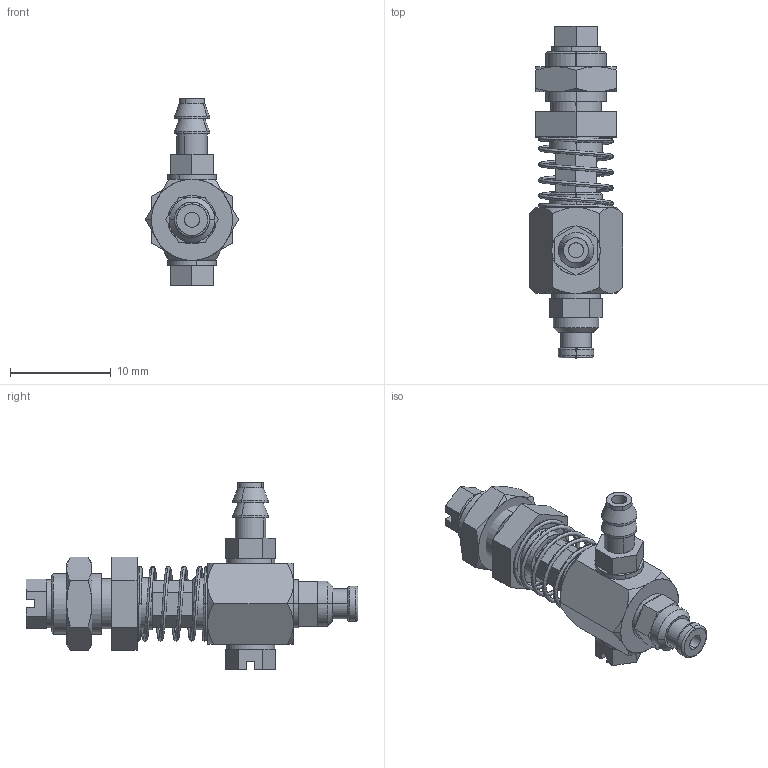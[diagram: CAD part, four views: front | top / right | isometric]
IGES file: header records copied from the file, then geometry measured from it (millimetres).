
Start section: SolidWorks IGES file using analytic representation for surfaces
Global section: file name: \\Eins-server\共有図面\カタログVOL2製作資料\吸着金具(23点)\igs\210823_VFILB-MSH.IGS; native system: SolidWorks 2006 by SolidWorks Corporation; preprocessor: SolidWorks 2006 by SolidWorks Corporation; author: CAD54; date: 080501.151320; units: millimetre
Bounding box: 9.24 x 32.9 x 18.5 mm (x, y, z)
Surface area: 2351.1 mm2 (no closed solid volume)
Topology: 0 solids, 0 shells, 299 faces, 4726 edges, 4726 vertices
Faces by surface type: bspline 155, revolution 144
